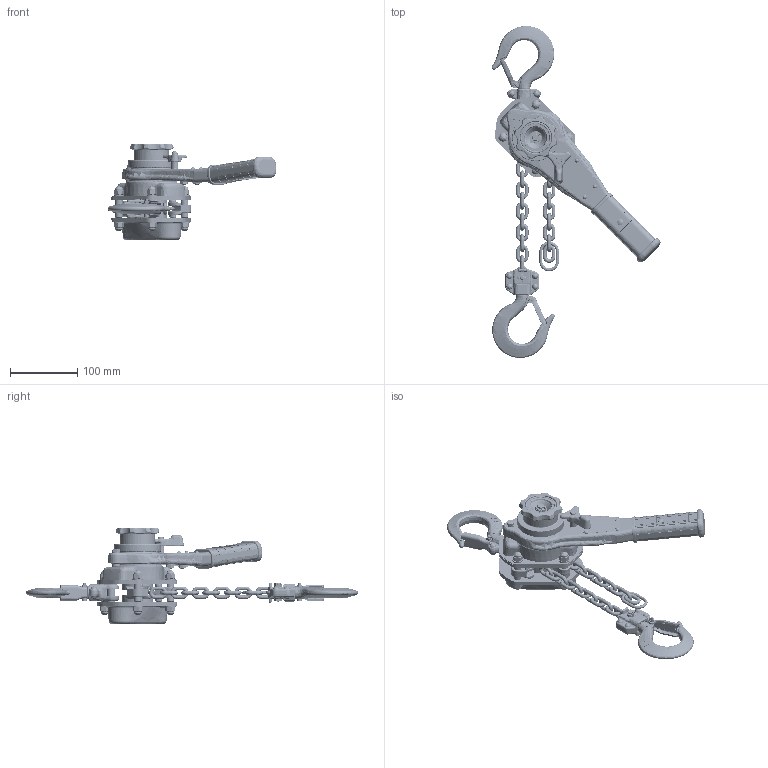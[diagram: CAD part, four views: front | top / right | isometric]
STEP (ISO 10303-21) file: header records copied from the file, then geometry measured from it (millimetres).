
FILE_DESCRIPTION (( 'STEP AP214' ), '1' );
FILE_NAME ('LB010.STEP', '2026-08-13T18:17:44', ( '' ), ( '' ), 'SwSTEP 2.0', 'SolidWorks 2026', '' );
FILE_SCHEMA (( 'AUTOMOTIVE_DESIGN' ));
Length unit declared in the file: inch
Products named in the file (28): LB010; TOP HOOK ASSEMBLY_L5BA010-10013.IGS; LATCH SPRING_L5BA008-90771_010.IGS; FREE CHAIN KNOB_L5BA008-52013-LV2.IGS; LATCH NUT_C2BA005-90744.IGS; TOP PIN_L5BA008-91631.IGS; BOTTOM HOOK ASSEMBLY_L5BA010-10213.IGS; DOMED CAP NUT, SPRING LOCK WASHER_LB010.IGS; FRAME B_L5BA008-91021.IGS; SPLIT PIN_J1PW01-016010.IGS; FRAME A SUB ASSEMBLY_L5BA008-51011.IGS; CHAIN GUIDE_L5BA008-91612.IGS; LATCH BOLT_L5BA008-90761.IGS; LOAD CHAIN_LB010-LV2.IGS; SLOTTED NUT_C3BA005-90493.IGS; GEAR CASE ASSEMBLY_L5BA008-51031.IGS; LATCH_L5BA010-90751.IGS; LOAD SHEAVE_L5BA008-91161-LV2.IGS; NAME PLATE_L5BU010-98001_USA.IGS; STRIPPER_L5BA008-91622.IGS; LEVER ASSEMBLY_LB008.IGS; CHAIN STOPPER LINK_L5BA008-90452.IGS; LB010-LV2_USA.IGS; SLOTTED NUT_C3BA020-9049.IGS; SPLIT PIN_J1PW01-020014.IGS; SPRING HOLDER_L5BA008-92082-LV2.IGS; CHAIN PIN_L4BA008-90411.IGS; PINION_L5BA008-91111-LV2.IGS
Assembly tree (32 placements, depth 3):
  LB010
    LB010-LV2_USA.IGS
      LOAD SHEAVE_L5BA008-91161-LV2.IGS
      FRAME A SUB ASSEMBLY_L5BA008-51011.IGS
      FRAME B_L5BA008-91021.IGS
      GEAR CASE ASSEMBLY_L5BA008-51031.IGS
      LEVER ASSEMBLY_LB008.IGS
      FREE CHAIN KNOB_L5BA008-52013-LV2.IGS
      SPRING HOLDER_L5BA008-92082-LV2.IGS
      PINION_L5BA008-91111-LV2.IGS
      TOP PIN_L5BA008-91631.IGS
      CHAIN GUIDE_L5BA008-91612.IGS  x2
      STRIPPER_L5BA008-91622.IGS
      DOMED CAP NUT, SPRING LOCK WASHER_LB010.IGS
      SLOTTED NUT_C3BA020-9049.IGS
      SPLIT PIN_J1PW01-020014.IGS
      TOP HOOK ASSEMBLY_L5BA010-10013.IGS
      LATCH_L5BA010-90751.IGS  x2
      LATCH SPRING_L5BA008-90771_010.IGS  x2
      LATCH BOLT_L5BA008-90761.IGS  x2
      LATCH NUT_C2BA005-90744.IGS  x2
      BOTTOM HOOK ASSEMBLY_L5BA010-10213.IGS
      CHAIN STOPPER LINK_L5BA008-90452.IGS
      CHAIN PIN_L4BA008-90411.IGS
      SLOTTED NUT_C3BA005-90493.IGS
      LOAD CHAIN_LB010-LV2.IGS
      SPLIT PIN_J1PW01-016010.IGS
      NAME PLATE_L5BU010-98001_USA.IGS
Bounding box: 251.62 x 494.2 x 144.19 mm (x, y, z)
Volume: 343427.7 mm3; surface area: 372495.3 mm2
Topology: 64 solids, 128 shells, 4770 faces, 15464 edges, 11165 vertices
Faces by surface type: bspline 4770
Entity records: 577599 total; most frequent: CARTESIAN_POINT 473741, ORIENTED_EDGE 28116, EDGE_CURVE 14216, B_SPLINE_CURVE_WITH_KNOTS 11196, VERTEX_POINT 10530, EDGE_LOOP 4936, ADVANCED_FACE 4307, FACE_OUTER_BOUND 4307
